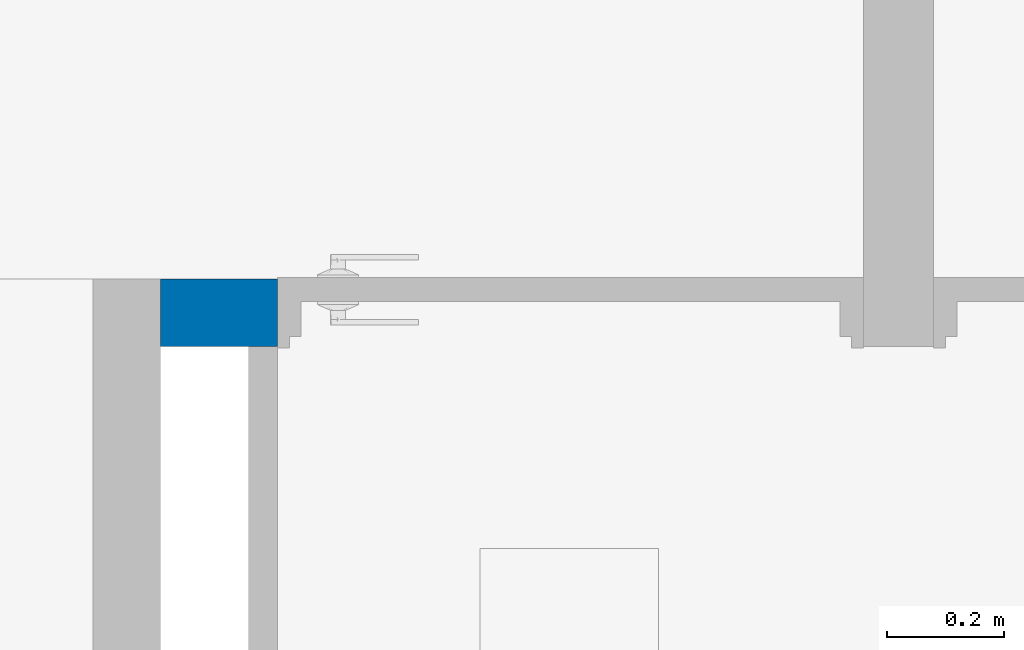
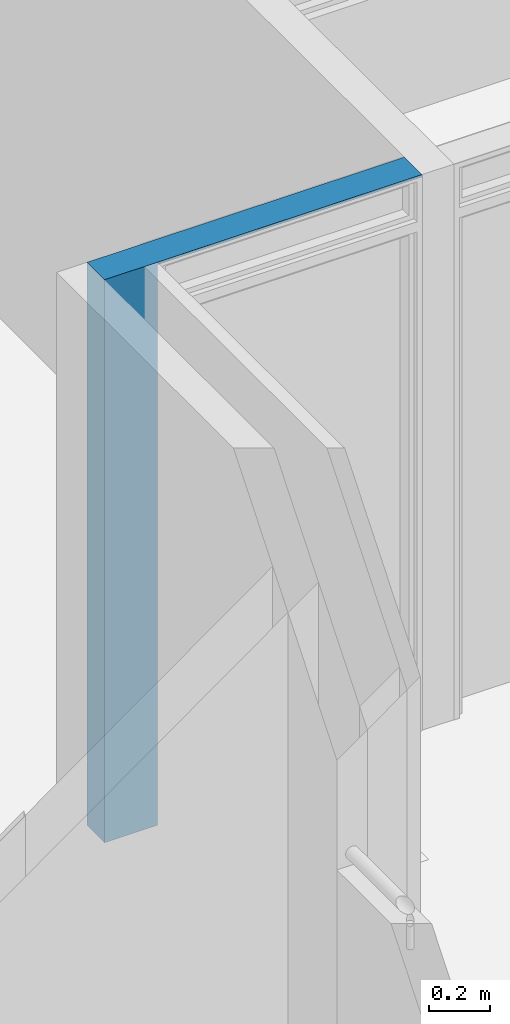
# One storey, part 31 of 48: 1 wall, 1 opening.
"""IFC4 building model written with IfcOpenShell, lengths in metres."""

from ifc_helpers import new_model, entity, si_unit, converted_unit, derived_unit, direction, frame, origin, place, context, subcontext, project, spatial, indexed_curve, outline, extrude, polygons, material, type_object, element, save


model = new_model("IFC4")

# Units and contexts
model_context = context("Model", 3, precision=1e-05, world=origin(), true_north=direction((6.123031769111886e-17, 1.0)))
body_context = subcontext(model_context, "Body", "Model", "MODEL_VIEW")
ifc_project = project(units=[si_unit("LENGTHUNIT", "METRE"), si_unit("AREAUNIT", "SQUARE_METRE"), si_unit("VOLUMEUNIT", "CUBIC_METRE"), converted_unit("PLANEANGLEUNIT", "DEGREE", entity("IfcRatioMeasure", 0.017453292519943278), si_unit("PLANEANGLEUNIT", "RADIAN"), dimensions=[0, 0, 0, 0, 0, 0, 0]), si_unit("MASSUNIT", "GRAM", prefix="KILO"), derived_unit("MASSDENSITYUNIT", [(si_unit("MASSUNIT", "GRAM", prefix="KILO"), 1), (si_unit("LENGTHUNIT", "METRE"), -3)]), derived_unit("IONCONCENTRATIONUNIT", [(si_unit("MASSUNIT", "GRAM", prefix="KILO"), 1), (si_unit("LENGTHUNIT", "METRE"), -3)]), derived_unit("MOMENTOFINERTIAUNIT", [(si_unit("LENGTHUNIT", "METRE"), 4)]), si_unit("TIMEUNIT", "SECOND"), si_unit("FREQUENCYUNIT", "HERTZ"), si_unit("THERMODYNAMICTEMPERATUREUNIT", "DEGREE_CELSIUS"), derived_unit("THERMALTRANSMITTANCEUNIT", [(si_unit("MASSUNIT", "GRAM", prefix="KILO"), 1), (si_unit("THERMODYNAMICTEMPERATUREUNIT", "KELVIN"), -1), (si_unit("TIMEUNIT", "SECOND"), -3)]), derived_unit("THERMALCONDUCTANCEUNIT", [(si_unit("MASSUNIT", "GRAM", prefix="KILO"), 1), (si_unit("THERMODYNAMICTEMPERATUREUNIT", "KELVIN"), -1), (si_unit("TIMEUNIT", "SECOND"), -3), (si_unit("LENGTHUNIT", "METRE"), 1)]), derived_unit("VOLUMETRICFLOWRATEUNIT", [(si_unit("LENGTHUNIT", "METRE"), 3), (si_unit("TIMEUNIT", "SECOND"), -1)]), derived_unit("MASSFLOWRATEUNIT", [(si_unit("MASSUNIT", "GRAM", prefix="KILO"), 1), (si_unit("TIMEUNIT", "SECOND"), -1)]), derived_unit("ROTATIONALFREQUENCYUNIT", [(si_unit("TIMEUNIT", "SECOND"), -1)]), si_unit("ELECTRICCURRENTUNIT", "AMPERE"), si_unit("ELECTRICVOLTAGEUNIT", "VOLT"), si_unit("POWERUNIT", "WATT"), si_unit("FORCEUNIT", "NEWTON", prefix="KILO"), si_unit("ILLUMINANCEUNIT", "LUX"), si_unit("LUMINOUSFLUXUNIT", "LUMEN"), si_unit("LUMINOUSINTENSITYUNIT", "CANDELA"), derived_unit("USERDEFINED", [(si_unit("MASSUNIT", "GRAM", prefix="KILO"), -1), (si_unit("LENGTHUNIT", "METRE"), -2), (si_unit("TIMEUNIT", "SECOND"), 3), (si_unit("LUMINOUSFLUXUNIT", "LUMEN"), 1)]), derived_unit("USERDEFINED", [(si_unit("MASSUNIT", "GRAM", prefix="KILO"), 1), (si_unit("TIMEUNIT", "SECOND"), -3), (si_unit("LENGTHUNIT", "METRE"), 3), (si_unit("ELECTRICCURRENTUNIT", "AMPERE"), -2)]), derived_unit("SOUNDPOWERUNIT", [(si_unit("MASSUNIT", "GRAM", prefix="KILO"), 1), (si_unit("TIMEUNIT", "SECOND"), -3), (si_unit("LENGTHUNIT", "METRE"), 2)]), derived_unit("SOUNDPRESSUREUNIT", [(si_unit("MASSUNIT", "GRAM", prefix="KILO"), 1), (si_unit("LENGTHUNIT", "METRE"), -1), (si_unit("TIMEUNIT", "SECOND"), -2)]), derived_unit("LINEARVELOCITYUNIT", [(si_unit("LENGTHUNIT", "METRE"), 1), (si_unit("TIMEUNIT", "SECOND"), -1)]), si_unit("PRESSUREUNIT", "PASCAL"), derived_unit("USERDEFINED", [(si_unit("MASSUNIT", "GRAM", prefix="KILO"), 1), (si_unit("LENGTHUNIT", "METRE"), -2), (si_unit("TIMEUNIT", "SECOND"), -2)]), derived_unit("LINEARFORCEUNIT", [(si_unit("MASSUNIT", "GRAM", prefix="KILO"), 1), (si_unit("TIMEUNIT", "SECOND"), -2)]), derived_unit("PLANARFORCEUNIT", [(si_unit("MASSUNIT", "GRAM", prefix="KILO"), 1), (si_unit("LENGTHUNIT", "METRE"), -1), (si_unit("TIMEUNIT", "SECOND"), -2)]), derived_unit("SPECIFICHEATCAPACITYUNIT", [(si_unit("THERMODYNAMICTEMPERATUREUNIT", "KELVIN"), -1), (si_unit("LENGTHUNIT", "METRE"), 2), (si_unit("TIMEUNIT", "SECOND"), -2)]), derived_unit("HEATINGVALUEUNIT", [(si_unit("LENGTHUNIT", "METRE"), 2), (si_unit("TIMEUNIT", "SECOND"), -2)]), derived_unit("VAPORPERMEABILITYUNIT", [(si_unit("LENGTHUNIT", "METRE"), -1), (si_unit("TIMEUNIT", "SECOND"), 1)]), derived_unit("DYNAMICVISCOSITYUNIT", [(si_unit("MASSUNIT", "GRAM", prefix="KILO"), 1), (si_unit("TIMEUNIT", "SECOND"), -1), (si_unit("LENGTHUNIT", "METRE"), -1)]), derived_unit("THERMALEXPANSIONCOEFFICIENTUNIT", [(si_unit("THERMODYNAMICTEMPERATUREUNIT", "KELVIN"), -1)]), derived_unit("MODULUSOFELASTICITYUNIT", [(si_unit("MASSUNIT", "GRAM", prefix="KILO"), 1), (si_unit("LENGTHUNIT", "METRE"), -1), (si_unit("TIMEUNIT", "SECOND"), -2)]), derived_unit("ISOTHERMALMOISTURECAPACITYUNIT", [(si_unit("LENGTHUNIT", "METRE"), 3), (si_unit("MASSUNIT", "GRAM", prefix="KILO"), -1)]), derived_unit("MOISTUREDIFFUSIVITYUNIT", [(si_unit("TIMEUNIT", "SECOND"), -1), (si_unit("LENGTHUNIT", "METRE"), 2)])], contexts=[model_context])

# Site, building, storey
site_placement = place(None, origin())
site = spatial("IfcSite", under=ifc_project, at=site_placement, Name="Default", CompositionType="ELEMENT")
building_placement = place(site_placement, origin())
building = spatial("IfcBuilding", under=site, at=building_placement, CompositionType="ELEMENT")
storey_placement = place(building_placement, frame((0.0, 0.0, 9.40000000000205)))
storey = spatial("IfcBuildingStorey", under=building, at=storey_placement, Name="Nivel 5", CompositionType="ELEMENT", Elevation=9.40000000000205)

# Wall, opening
ifc_material = material(Name="LADRILLO CLARO", Category="Materials")
wall_type = type_object("IfcWallType", Name="Basic Wall:B2010 - 0.115m - MI mampostería no estructural - Ladrillo", PredefinedType="STANDARD")
wall_placement = place(storey_placement, frame((8.062500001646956, -3.7675000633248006, 0.0)))
wall = element("IfcWall", 1, at=wall_placement, inside=storey, type_object=wall_type, material=ifc_material, Name="Basic Wall:B2010 - 0.115m - MI mampostería no estructural - Ladrillo", ObjectType="Basic Wall:B2010 - 0.115m - MI mampostería no estructural - Ladrillo", PredefinedType="NOTDEFINED", context=body_context, shape_type="Tessellation", body=[
    polygons([(1.1999999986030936, -0.05750000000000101, 2.2499999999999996), (0.1999999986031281, -0.057499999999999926, 2.2499999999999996), (0.14999999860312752, -0.05750000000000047, 2.2499999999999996), (6.609339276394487e-16, -0.057499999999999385, 2.2499999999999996), (6.609339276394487e-16, -0.057499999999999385, -1.0828671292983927e-15), (0.14999999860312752, -0.05750000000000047, -1.0828671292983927e-15), (0.19999999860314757, -0.057499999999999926, -1.0828671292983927e-15), (0.19999999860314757, -0.057499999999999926, 2.2399999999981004), (1.1999999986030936, -0.05750000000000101, 2.2399999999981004), (3.9617900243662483e-16, 0.05750000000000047, 2.2499999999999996), (1.1999999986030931, 0.057499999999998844, 2.2499999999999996), (1.1999999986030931, 0.057499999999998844, 2.2399999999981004), (0.19999999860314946, 0.057499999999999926, 2.2399999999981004), (0.1999999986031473, 0.057499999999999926, -1.0828671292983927e-15), (3.9617900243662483e-16, 0.05750000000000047, -1.0828671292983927e-15)], [[[1, 2, 3, 4, 5, 6, 7, 8, 9]], [[10, 11, 12, 13, 14, 15]], [[5, 15, 14, 7, 6]], [[11, 1, 9, 12]], [[4, 3, 2, 1, 11, 10]], [[5, 4, 10, 15]], [[13, 8, 7, 14]], [[8, 13, 12, 9]]], closed=True),
])
opening_placement = place(wall_placement, frame((0.19999999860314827, -0.057499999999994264, 0.0)))
element("IfcOpeningElement", 2, at=opening_placement, cuts=wall, Name="C1030 - Puerta batiente - Madera + Metal:C1030 - 1.00 x 2.24 - Puerta batiente - Madera:1", PredefinedType="OPENING", context=body_context, shape_type="SweptSolid", body=[
    extrude(outline(indexed_curve([(0.0, -4.288200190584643e-32), (2.2399999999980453, -4.288200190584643e-32), (2.2399999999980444, 0.9999999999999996), (0.0, 0.9999999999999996), (0.0, -4.288200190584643e-32)], self_intersect=False)), frame((0.0, 0.0, 0.0), z_axis=(0.0, 1.0, 0.0), x_axis=(0.0, 0.0, 1.0)), (0.0, 0.0, 1.0), 0.115),
])

save(model, "model.ifc")
